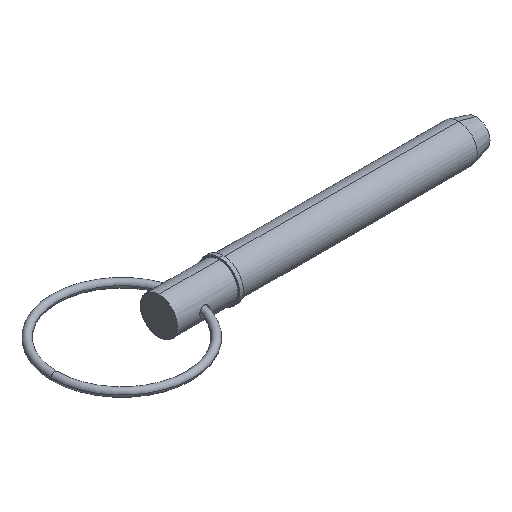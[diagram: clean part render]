
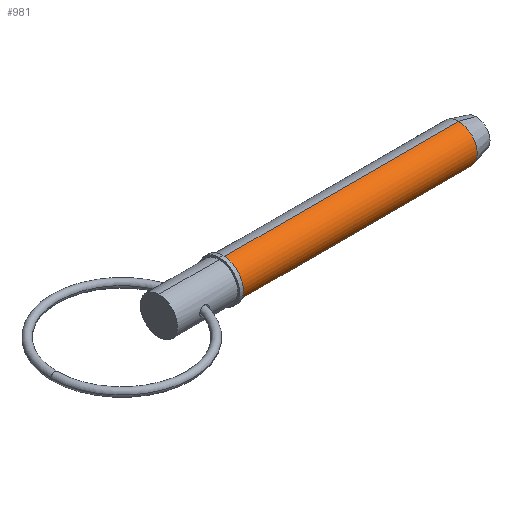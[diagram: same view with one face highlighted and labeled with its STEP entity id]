
A CAD part, isometric view. The second image highlights one B-rep face of the part: STEP entity #981.
In plain terms, the highlighted cylindrical face has radius 7.94 mm (diameter 15.88 mm), a partial arc.
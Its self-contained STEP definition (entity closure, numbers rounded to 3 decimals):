
#8 = CARTESIAN_POINT ( 'NONE',  ( 127.852, 0., 0. ) ) ;
#26 = LINE ( 'NONE', #126, #800 ) ;
#27 = DIRECTION ( 'NONE',  ( 0., 0., -1. ) ) ;
#85 = DIRECTION ( 'NONE',  ( 0., 0., -1. ) ) ;
#102 = DIRECTION ( 'NONE',  ( 1., 0., 0. ) ) ;
#111 = VERTEX_POINT ( 'NONE', #988 ) ;
#114 = FACE_OUTER_BOUND ( 'NONE', #799, .T. ) ;
#126 = CARTESIAN_POINT ( 'NONE',  ( 0., 0., 7.94 ) ) ;
#127 = CYLINDRICAL_SURFACE ( 'NONE', #1031, 7.94 ) ;
#134 = VECTOR ( 'NONE', #102, 1000. ) ;
#143 = DIRECTION ( 'NONE',  ( 1., 0., 0. ) ) ;
#201 = AXIS2_PLACEMENT_3D ( 'NONE', #8, #756, #27 ) ;
#227 = CARTESIAN_POINT ( 'NONE',  ( 27.31, 0., 0. ) ) ;
#249 = EDGE_CURVE ( 'NONE', #885, #520, #26, .T. ) ;
#259 = CARTESIAN_POINT ( 'NONE',  ( 0., 0., -7.94 ) ) ;
#333 = LINE ( 'NONE', #259, #134 ) ;
#365 = CARTESIAN_POINT ( 'NONE',  ( 0., 0., 0. ) ) ;
#373 = AXIS2_PLACEMENT_3D ( 'NONE', #227, #143, #85 ) ;
#375 = ORIENTED_EDGE ( 'NONE', *, *, #896, .T. ) ;
#416 = CIRCLE ( 'NONE', #201, 7.94 ) ;
#437 = DIRECTION ( 'NONE',  ( 1., 0., 0. ) ) ;
#464 = ORIENTED_EDGE ( 'NONE', *, *, #930, .F. ) ;
#496 = CIRCLE ( 'NONE', #373, 7.94 ) ;
#520 = VERTEX_POINT ( 'NONE', #699 ) ;
#529 = CARTESIAN_POINT ( 'NONE',  ( 127.852, 0., -7.94 ) ) ;
#631 = ORIENTED_EDGE ( 'NONE', *, *, #249, .F. ) ;
#691 = DIRECTION ( 'NONE',  ( 1., 0., 0. ) ) ;
#699 = CARTESIAN_POINT ( 'NONE',  ( 127.852, 0., 7.94 ) ) ;
#756 = DIRECTION ( 'NONE',  ( 1., 0., 0. ) ) ;
#757 = EDGE_CURVE ( 'NONE', #885, #111, #496, .T. ) ;
#799 = EDGE_LOOP ( 'NONE', ( #631, #966, #375, #464 ) ) ;
#800 = VECTOR ( 'NONE', #691, 1000. ) ;
#860 = DIRECTION ( 'NONE',  ( 0., 0., -1. ) ) ;
#885 = VERTEX_POINT ( 'NONE', #907 ) ;
#896 = EDGE_CURVE ( 'NONE', #111, #1020, #333, .T. ) ;
#907 = CARTESIAN_POINT ( 'NONE',  ( 27.31, 0., 7.94 ) ) ;
#930 = EDGE_CURVE ( 'NONE', #520, #1020, #416, .T. ) ;
#966 = ORIENTED_EDGE ( 'NONE', *, *, #757, .T. ) ;
#981 = ADVANCED_FACE ( 'NONE', ( #114 ), #127, .T. ) ;
#988 = CARTESIAN_POINT ( 'NONE',  ( 27.31, 0., -7.94 ) ) ;
#1020 = VERTEX_POINT ( 'NONE', #529 ) ;
#1031 = AXIS2_PLACEMENT_3D ( 'NONE', #365, #437, #860 ) ;
